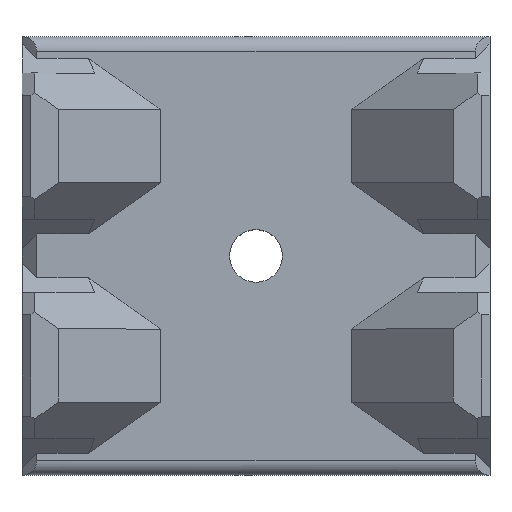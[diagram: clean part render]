
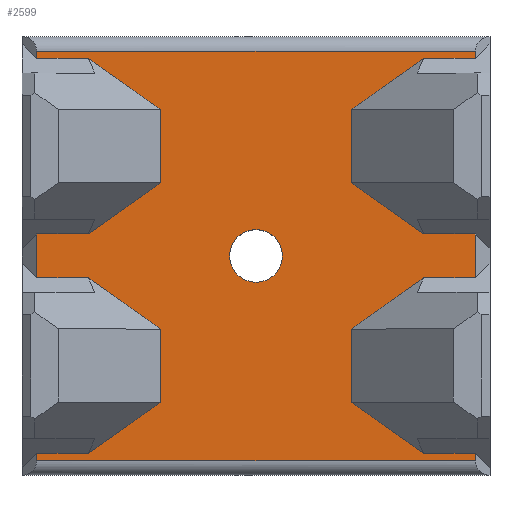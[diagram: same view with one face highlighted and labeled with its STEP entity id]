
A CAD part, top view. The second image highlights one B-rep face of the part: STEP entity #2599.
In plain terms, the highlighted planar face has unit normal (0, 0, 1).
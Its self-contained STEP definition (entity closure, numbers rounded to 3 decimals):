
#25=FACE_BOUND('',#435,.T.);
#121=CIRCLE('',#2795,1.8);
#283=FACE_OUTER_BOUND('',#434,.T.);
#434=EDGE_LOOP('',(#2327,#2328,#2329,#2330,#2331,#2332,#2333,#2334,#2335,
#2336,#2337,#2338,#2339,#2340,#2341,#2342,#2343,#2344,#2345,#2346,#2347,
#2348,#2349,#2350,#2351,#2352,#2353,#2354));
#435=EDGE_LOOP('',(#2355));
#455=LINE('',#3556,#749);
#462=LINE('',#3570,#756);
#468=LINE('',#3581,#762);
#499=LINE('',#3645,#793);
#507=LINE('',#3661,#801);
#509=LINE('',#3666,#803);
#545=LINE('',#3852,#839);
#550=LINE('',#3861,#844);
#553=LINE('',#3867,#847);
#557=LINE('',#3876,#851);
#564=LINE('',#3892,#858);
#567=LINE('',#3898,#861);
#568=LINE('',#3900,#862);
#617=LINE('',#4027,#911);
#625=LINE('',#4043,#919);
#627=LINE('',#4048,#921);
#658=LINE('',#4111,#952);
#665=LINE('',#4125,#959);
#671=LINE('',#4136,#965);
#702=LINE('',#4301,#996);
#703=LINE('',#4304,#997);
#705=LINE('',#4308,#999);
#711=LINE('',#4318,#1005);
#717=LINE('',#4338,#1011);
#718=LINE('',#4340,#1012);
#720=LINE('',#4343,#1014);
#721=LINE('',#4347,#1015);
#723=LINE('',#4350,#1017);
#749=VECTOR('',#2846,10.);
#756=VECTOR('',#2859,10.);
#762=VECTOR('',#2867,10.);
#793=VECTOR('',#2918,10.);
#801=VECTOR('',#2932,10.);
#803=VECTOR('',#2936,10.);
#839=VECTOR('',#3066,10.);
#844=VECTOR('',#3073,10.);
#847=VECTOR('',#3078,10.);
#851=VECTOR('',#3086,10.);
#858=VECTOR('',#3099,10.);
#861=VECTOR('',#3106,10.);
#862=VECTOR('',#3109,10.);
#911=VECTOR('',#3214,10.);
#919=VECTOR('',#3228,10.);
#921=VECTOR('',#3232,10.);
#952=VECTOR('',#3283,10.);
#959=VECTOR('',#3296,10.);
#965=VECTOR('',#3304,10.);
#996=VECTOR('',#3433,10.);
#997=VECTOR('',#3436,10.);
#999=VECTOR('',#3440,10.);
#1005=VECTOR('',#3450,10.);
#1011=VECTOR('',#3472,10.);
#1012=VECTOR('',#3475,10.);
#1014=VECTOR('',#3479,10.);
#1015=VECTOR('',#3484,10.);
#1017=VECTOR('',#3488,10.);
#1040=VERTEX_POINT('',#3553);
#1041=VERTEX_POINT('',#3555);
#1045=VERTEX_POINT('',#3569);
#1049=VERTEX_POINT('',#3579);
#1071=VERTEX_POINT('',#3641);
#1072=VERTEX_POINT('',#3643);
#1077=VERTEX_POINT('',#3659);
#1079=VERTEX_POINT('',#3665);
#1118=VERTEX_POINT('',#3851);
#1121=VERTEX_POINT('',#3859);
#1123=VERTEX_POINT('',#3865);
#1126=VERTEX_POINT('',#3875);
#1132=VERTEX_POINT('',#3890);
#1133=VERTEX_POINT('',#3895);
#1178=VERTEX_POINT('',#4023);
#1179=VERTEX_POINT('',#4025);
#1184=VERTEX_POINT('',#4041);
#1186=VERTEX_POINT('',#4047);
#1207=VERTEX_POINT('',#4108);
#1208=VERTEX_POINT('',#4110);
#1212=VERTEX_POINT('',#4124);
#1216=VERTEX_POINT('',#4134);
#1241=VERTEX_POINT('',#4299);
#1242=VERTEX_POINT('',#4303);
#1243=VERTEX_POINT('',#4307);
#1245=VERTEX_POINT('',#4316);
#1247=VERTEX_POINT('',#4322);
#1251=VERTEX_POINT('',#4336);
#1252=VERTEX_POINT('',#4345);
#1274=EDGE_CURVE('',#1040,#1041,#455,.T.);
#1281=EDGE_CURVE('',#1041,#1045,#462,.T.);
#1287=EDGE_CURVE('',#1049,#1040,#468,.F.);
#1318=EDGE_CURVE('',#1071,#1072,#499,.T.);
#1326=EDGE_CURVE('',#1072,#1077,#507,.T.);
#1328=EDGE_CURVE('',#1079,#1071,#509,.F.);
#1392=EDGE_CURVE('',#1118,#1045,#545,.T.);
#1397=EDGE_CURVE('',#1077,#1121,#550,.T.);
#1400=EDGE_CURVE('',#1049,#1123,#553,.T.);
#1404=EDGE_CURVE('',#1126,#1079,#557,.T.);
#1412=EDGE_CURVE('',#1121,#1132,#564,.T.);
#1416=EDGE_CURVE('',#1133,#1118,#567,.T.);
#1417=EDGE_CURVE('',#1132,#1133,#568,.T.);
#1478=EDGE_CURVE('',#1178,#1179,#617,.T.);
#1486=EDGE_CURVE('',#1179,#1184,#625,.T.);
#1488=EDGE_CURVE('',#1186,#1178,#627,.F.);
#1519=EDGE_CURVE('',#1207,#1208,#658,.T.);
#1526=EDGE_CURVE('',#1208,#1212,#665,.T.);
#1532=EDGE_CURVE('',#1216,#1207,#671,.F.);
#1588=EDGE_CURVE('',#1241,#1184,#702,.T.);
#1589=EDGE_CURVE('',#1212,#1242,#703,.T.);
#1591=EDGE_CURVE('',#1186,#1243,#705,.T.);
#1597=EDGE_CURVE('',#1245,#1216,#711,.T.);
#1600=EDGE_CURVE('',#1247,#1247,#121,.T.);
#1607=EDGE_CURVE('',#1242,#1251,#717,.T.);
#1608=EDGE_CURVE('',#1126,#1245,#718,.T.);
#1610=EDGE_CURVE('',#1123,#1243,#720,.T.);
#1612=EDGE_CURVE('',#1252,#1241,#721,.T.);
#1614=EDGE_CURVE('',#1251,#1252,#723,.T.);
#2327=ORIENTED_EDGE('',*,*,#1608,.F.);
#2328=ORIENTED_EDGE('',*,*,#1404,.T.);
#2329=ORIENTED_EDGE('',*,*,#1328,.T.);
#2330=ORIENTED_EDGE('',*,*,#1318,.T.);
#2331=ORIENTED_EDGE('',*,*,#1326,.T.);
#2332=ORIENTED_EDGE('',*,*,#1397,.T.);
#2333=ORIENTED_EDGE('',*,*,#1412,.T.);
#2334=ORIENTED_EDGE('',*,*,#1417,.T.);
#2335=ORIENTED_EDGE('',*,*,#1416,.T.);
#2336=ORIENTED_EDGE('',*,*,#1392,.T.);
#2337=ORIENTED_EDGE('',*,*,#1281,.F.);
#2338=ORIENTED_EDGE('',*,*,#1274,.F.);
#2339=ORIENTED_EDGE('',*,*,#1287,.F.);
#2340=ORIENTED_EDGE('',*,*,#1400,.T.);
#2341=ORIENTED_EDGE('',*,*,#1610,.T.);
#2342=ORIENTED_EDGE('',*,*,#1591,.F.);
#2343=ORIENTED_EDGE('',*,*,#1488,.T.);
#2344=ORIENTED_EDGE('',*,*,#1478,.T.);
#2345=ORIENTED_EDGE('',*,*,#1486,.T.);
#2346=ORIENTED_EDGE('',*,*,#1588,.F.);
#2347=ORIENTED_EDGE('',*,*,#1612,.F.);
#2348=ORIENTED_EDGE('',*,*,#1614,.F.);
#2349=ORIENTED_EDGE('',*,*,#1607,.F.);
#2350=ORIENTED_EDGE('',*,*,#1589,.F.);
#2351=ORIENTED_EDGE('',*,*,#1526,.F.);
#2352=ORIENTED_EDGE('',*,*,#1519,.F.);
#2353=ORIENTED_EDGE('',*,*,#1532,.F.);
#2354=ORIENTED_EDGE('',*,*,#1597,.F.);
#2355=ORIENTED_EDGE('',*,*,#1600,.T.);
#2455=PLANE('',#2814);
#2599=ADVANCED_FACE('',(#283,#25),#2455,.T.);
#2795=AXIS2_PLACEMENT_3D('',#4324,#3456,#3457);
#2814=AXIS2_PLACEMENT_3D('',#4367,#3511,#3512);
#2846=DIRECTION('',(0.,1.,0.));
#2859=DIRECTION('',(-0.816,0.577,0.));
#2867=DIRECTION('',(-0.816,-0.577,0.));
#2918=DIRECTION('',(0.,1.,0.));
#2932=DIRECTION('',(0.816,0.577,0.));
#2936=DIRECTION('',(0.816,-0.577,0.));
#3066=DIRECTION('',(1.,0.,0.));
#3073=DIRECTION('',(1.,0.,0.));
#3078=DIRECTION('',(-1.,0.,0.));
#3086=DIRECTION('',(-1.,0.,0.));
#3099=DIRECTION('',(0.,1.,0.));
#3106=DIRECTION('',(0.,-1.,0.));
#3109=DIRECTION('',(-1.,0.,0.));
#3214=DIRECTION('',(0.,-1.,0.));
#3228=DIRECTION('',(-0.816,-0.577,0.));
#3232=DIRECTION('',(-0.816,0.577,0.));
#3283=DIRECTION('',(0.,-1.,0.));
#3296=DIRECTION('',(0.816,-0.577,0.));
#3304=DIRECTION('',(0.816,0.577,0.));
#3433=DIRECTION('',(1.,0.,0.));
#3436=DIRECTION('',(1.,0.,0.));
#3440=DIRECTION('',(-1.,0.,0.));
#3450=DIRECTION('',(-1.,0.,0.));
#3456=DIRECTION('center_axis',(0.,0.,-1.));
#3457=DIRECTION('ref_axis',(-1.,0.,0.));
#3472=DIRECTION('',(0.,-1.,0.));
#3475=DIRECTION('',(0.,-1.,0.));
#3479=DIRECTION('',(0.,-1.,0.));
#3484=DIRECTION('',(0.,1.,0.));
#3488=DIRECTION('',(-1.,0.,0.));
#3511=DIRECTION('center_axis',(0.,0.,1.));
#3512=DIRECTION('ref_axis',(0.,1.,0.));
#3553=CARTESIAN_POINT('',(-6.5,-2.5,15.));
#3555=CARTESIAN_POINT('',(-6.5,2.5,15.));
#3556=CARTESIAN_POINT('',(-6.5,0.,15.));
#3569=CARTESIAN_POINT('',(-11.45,6.,15.));
#3570=CARTESIAN_POINT('',(-7.208,3.001,15.));
#3579=CARTESIAN_POINT('',(-11.45,-6.,15.));
#3581=CARTESIAN_POINT('',(-7.208,-3.001,15.));
#3641=CARTESIAN_POINT('',(6.5,-2.5,15.));
#3643=CARTESIAN_POINT('',(6.5,2.5,15.));
#3645=CARTESIAN_POINT('',(6.5,0.,15.));
#3659=CARTESIAN_POINT('',(11.45,6.,15.));
#3661=CARTESIAN_POINT('',(7.208,3.001,15.));
#3665=CARTESIAN_POINT('',(11.45,-6.,15.));
#3666=CARTESIAN_POINT('',(7.208,-3.001,15.));
#3851=CARTESIAN_POINT('',(-15.,6.,15.));
#3852=CARTESIAN_POINT('',(8.,6.,15.));
#3859=CARTESIAN_POINT('',(15.,6.,15.));
#3861=CARTESIAN_POINT('',(8.,6.,15.));
#3865=CARTESIAN_POINT('',(-15.,-6.,15.));
#3867=CARTESIAN_POINT('',(8.,-6.,15.));
#3875=CARTESIAN_POINT('',(15.,-6.,15.));
#3876=CARTESIAN_POINT('',(8.,-6.,15.));
#3890=CARTESIAN_POINT('',(15.,6.5,15.));
#3892=CARTESIAN_POINT('',(15.,3.75,15.));
#3895=CARTESIAN_POINT('',(-15.,6.5,15.));
#3898=CARTESIAN_POINT('',(-15.,3.75,15.));
#3900=CARTESIAN_POINT('',(16.,6.5,15.));
#4023=CARTESIAN_POINT('',(-6.5,-12.5,15.));
#4025=CARTESIAN_POINT('',(-6.5,-17.5,15.));
#4027=CARTESIAN_POINT('',(-6.5,-15.,15.));
#4041=CARTESIAN_POINT('',(-11.45,-21.,15.));
#4043=CARTESIAN_POINT('',(-7.208,-18.001,15.));
#4047=CARTESIAN_POINT('',(-11.45,-9.,15.));
#4048=CARTESIAN_POINT('',(-7.208,-11.999,15.));
#4108=CARTESIAN_POINT('',(6.5,-12.5,15.));
#4110=CARTESIAN_POINT('',(6.5,-17.5,15.));
#4111=CARTESIAN_POINT('',(6.5,-15.,15.));
#4124=CARTESIAN_POINT('',(11.45,-21.,15.));
#4125=CARTESIAN_POINT('',(7.208,-18.001,15.));
#4134=CARTESIAN_POINT('',(11.45,-9.,15.));
#4136=CARTESIAN_POINT('',(7.208,-11.999,15.));
#4299=CARTESIAN_POINT('',(-15.,-21.,15.));
#4301=CARTESIAN_POINT('',(8.,-21.,15.));
#4303=CARTESIAN_POINT('',(15.,-21.,15.));
#4304=CARTESIAN_POINT('',(8.,-21.,15.));
#4307=CARTESIAN_POINT('',(-15.,-9.,15.));
#4308=CARTESIAN_POINT('',(8.,-9.,15.));
#4316=CARTESIAN_POINT('',(15.,-9.,15.));
#4318=CARTESIAN_POINT('',(8.,-9.,15.));
#4322=CARTESIAN_POINT('',(1.8,-7.5,15.));
#4324=CARTESIAN_POINT('Origin',(0.,-7.5,15.));
#4336=CARTESIAN_POINT('',(15.,-21.5,15.));
#4338=CARTESIAN_POINT('',(15.,-18.75,15.));
#4340=CARTESIAN_POINT('',(15.,-18.75,15.));
#4343=CARTESIAN_POINT('',(-15.,3.75,15.));
#4345=CARTESIAN_POINT('',(-15.,-21.5,15.));
#4347=CARTESIAN_POINT('',(-15.,-18.75,15.));
#4350=CARTESIAN_POINT('',(16.,-21.5,15.));
#4367=CARTESIAN_POINT('Origin',(16.,-22.5,15.));
